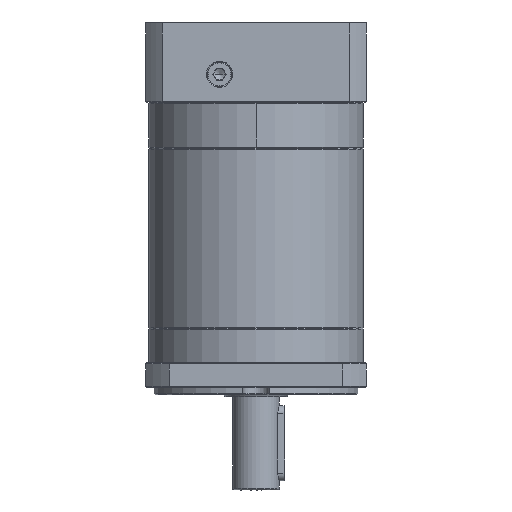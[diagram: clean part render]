
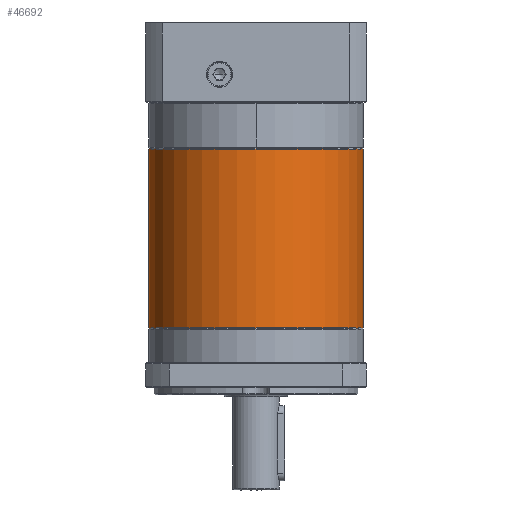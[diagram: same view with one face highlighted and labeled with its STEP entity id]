
A CAD part, front view. The second image highlights one B-rep face of the part: STEP entity #46692.
In plain terms, the highlighted cylindrical face has radius 57.5 mm (diameter 115 mm), a partial arc.
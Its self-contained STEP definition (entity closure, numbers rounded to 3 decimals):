
#3595 = CARTESIAN_POINT ( 'NONE',  ( 48.62, 55.652, -58.208 ) ) ;
#4546 = ORIENTED_EDGE ( 'NONE', *, *, #15861, .T. ) ;
#6174 = VECTOR ( 'NONE', #95609, 1000. ) ;
#7185 = VERTEX_POINT ( 'NONE', #65453 ) ;
#7595 = EDGE_CURVE ( 'NONE', #7185, #117468, #66245, .T. ) ;
#7820 = AXIS2_PLACEMENT_3D ( 'NONE', #3595, #52812, #33148 ) ;
#12536 = LINE ( 'NONE', #87068, #97560 ) ;
#13007 = DIRECTION ( 'NONE',  ( -1., 0., 0. ) ) ;
#14845 = EDGE_CURVE ( 'NONE', #64403, #127697, #29124, .T. ) ;
#15861 = EDGE_CURVE ( 'NONE', #117468, #64403, #70201, .T. ) ;
#25766 = DIRECTION ( 'NONE',  ( 0., 0., -1. ) ) ;
#29124 = CIRCLE ( 'NONE', #68346, 57.5 ) ;
#33148 = DIRECTION ( 'NONE',  ( -1., 0., 0. ) ) ;
#34008 = CARTESIAN_POINT ( 'NONE',  ( -8.88, 55.652, -58.208 ) ) ;
#39505 = CARTESIAN_POINT ( 'NONE',  ( 106.12, 55.652, -153.92 ) ) ;
#40868 = FACE_OUTER_BOUND ( 'NONE', #59258, .T. ) ;
#46692 = ADVANCED_FACE ( 'NONE', ( #40868 ), #58385, .T. ) ;
#52812 = DIRECTION ( 'NONE',  ( 0., 0., -1. ) ) ;
#54178 = DIRECTION ( 'NONE',  ( 0., 0., 1. ) ) ;
#55065 = AXIS2_PLACEMENT_3D ( 'NONE', #106849, #117592, #56099 ) ;
#55663 = VERTEX_POINT ( 'NONE', #58618 ) ;
#56099 = DIRECTION ( 'NONE',  ( -1., 0., 0. ) ) ;
#58385 = CYLINDRICAL_SURFACE ( 'NONE', #110901, 57.5 ) ;
#58618 = CARTESIAN_POINT ( 'NONE',  ( 106.12, 55.652, -58.208 ) ) ;
#59258 = EDGE_LOOP ( 'NONE', ( #98555, #98799, #110565, #4546, #78708 ) ) ;
#64025 = CARTESIAN_POINT ( 'NONE',  ( 48.62, 55.652, -153.92 ) ) ;
#64403 = VERTEX_POINT ( 'NONE', #91281 ) ;
#65453 = CARTESIAN_POINT ( 'NONE',  ( 48.62, -1.848, -58.208 ) ) ;
#66245 = CIRCLE ( 'NONE', #7820, 57.5 ) ;
#68346 = AXIS2_PLACEMENT_3D ( 'NONE', #64025, #54178, #13007 ) ;
#70201 = LINE ( 'NONE', #115834, #6174 ) ;
#71501 = EDGE_CURVE ( 'NONE', #55663, #7185, #95980, .T. ) ;
#78708 = ORIENTED_EDGE ( 'NONE', *, *, #14845, .T. ) ;
#85845 = DIRECTION ( 'NONE',  ( -1., 0., 0. ) ) ;
#87068 = CARTESIAN_POINT ( 'NONE',  ( 106.12, 55.652, -57.708 ) ) ;
#91281 = CARTESIAN_POINT ( 'NONE',  ( -8.88, 55.652, -153.92 ) ) ;
#93543 = DIRECTION ( 'NONE',  ( 0., 0., -1. ) ) ;
#95609 = DIRECTION ( 'NONE',  ( 0., 0., -1. ) ) ;
#95980 = CIRCLE ( 'NONE', #55065, 57.5 ) ;
#97560 = VECTOR ( 'NONE', #25766, 1000. ) ;
#98555 = ORIENTED_EDGE ( 'NONE', *, *, #130247, .F. ) ;
#98799 = ORIENTED_EDGE ( 'NONE', *, *, #71501, .T. ) ;
#106849 = CARTESIAN_POINT ( 'NONE',  ( 48.62, 55.652, -58.208 ) ) ;
#110565 = ORIENTED_EDGE ( 'NONE', *, *, #7595, .T. ) ;
#110901 = AXIS2_PLACEMENT_3D ( 'NONE', #114694, #93543, #85845 ) ;
#114694 = CARTESIAN_POINT ( 'NONE',  ( 48.62, 55.652, -57.708 ) ) ;
#115834 = CARTESIAN_POINT ( 'NONE',  ( -8.88, 55.652, -57.708 ) ) ;
#117468 = VERTEX_POINT ( 'NONE', #34008 ) ;
#117592 = DIRECTION ( 'NONE',  ( 0., 0., -1. ) ) ;
#127697 = VERTEX_POINT ( 'NONE', #39505 ) ;
#130247 = EDGE_CURVE ( 'NONE', #55663, #127697, #12536, .T. ) ;
